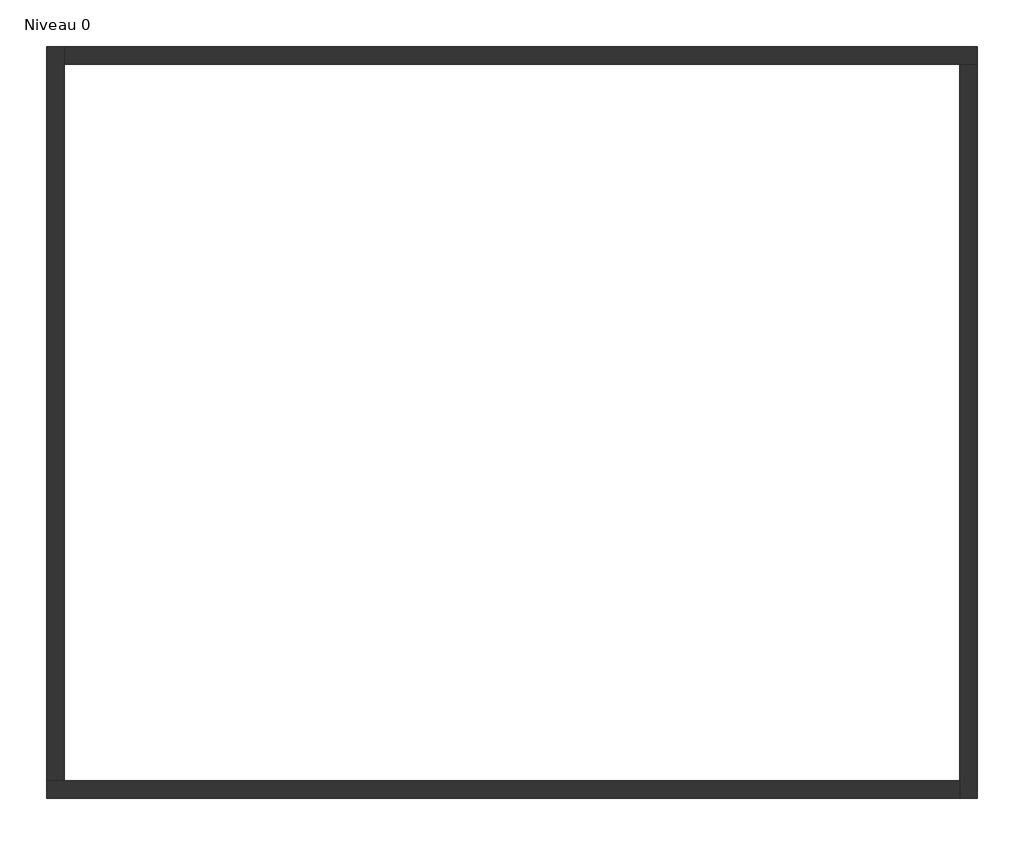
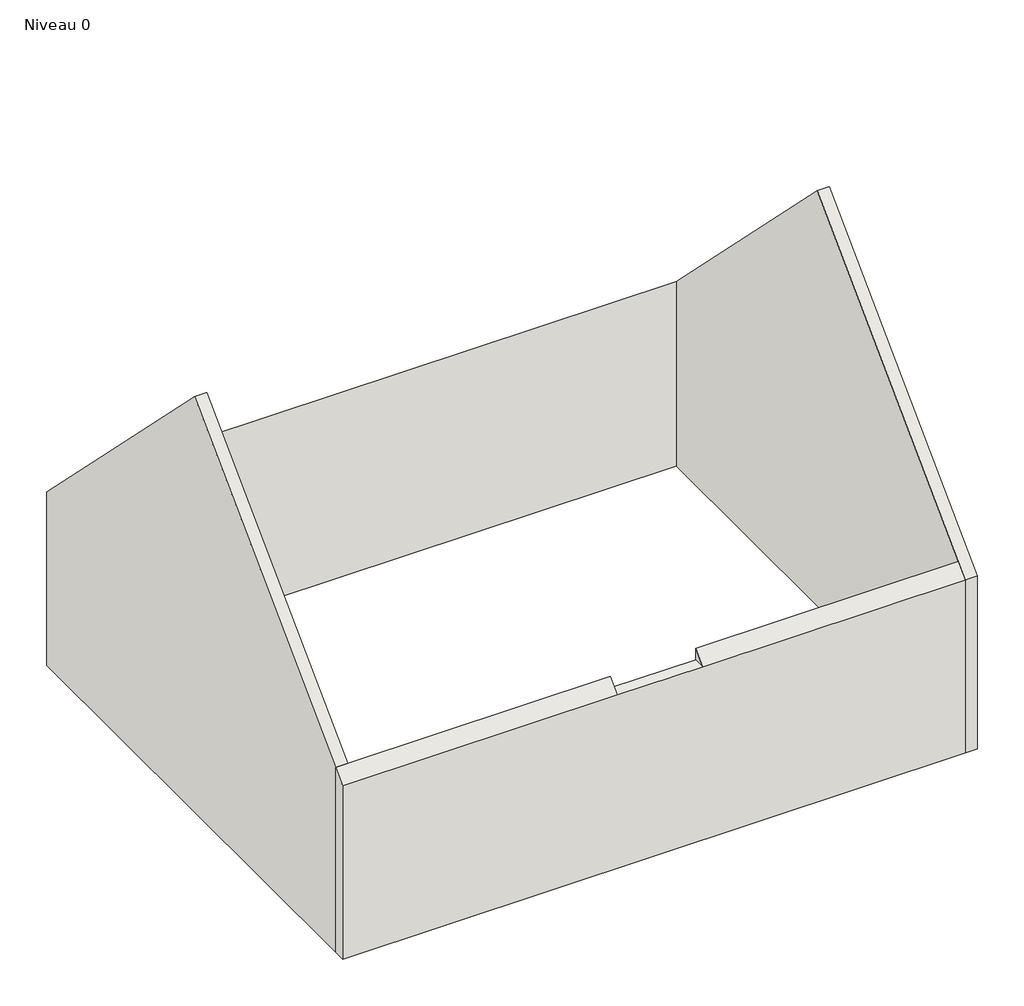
# One storey: 4 walls.
"""IFC4 building model written with IfcOpenShell, lengths in millimetres."""

from ifc_helpers import new_model, si_unit, origin, place, context, project, spatial, faceted_brep, element, save

model = new_model("IFC4")

# Units and contexts
model_context = context("Model", 3, world=origin())
ifc_project = project(units=[si_unit("LENGTHUNIT", "METRE", prefix="MILLI")], contexts=[model_context])

# Site, building, storey
site = spatial("IfcSite", under=ifc_project)
building = spatial("IfcBuilding", under=site)
storey = spatial("IfcBuildingStorey", under=building, Name="Niveau 0", Elevation=0.0)

# Walls
placement = place(None, origin())
element("IfcWall", 1, ObjectType="Générique - Ext. 200 mm", at=placement, inside=storey, context=model_context, shape_type="Brep", body=[
    faceted_brep([(-7119.8687345, -1701.1340917, 0.0), (3080.1312655, -1701.1340917, 0.0), (3080.1312655, -1701.1340917, 3000.0), (-1219.8687345, -1701.1340917, 3000.0), (-2619.8687345, -1701.1340917, 3000.0), (-7119.8687345, -1701.1340917, 3000.0), (3080.1312655, -1501.1340917, 0.0), (-6919.8687345, -1501.1340917, 0.0), (-7119.8687345, -1501.1340917, 0.0), (-7119.8687345, -1501.1340917, 3200.0), (-6919.8687345, -1501.1340917, 3200.0), (-2619.8687345, -1501.1340917, 3200.0), (-2619.8687345, -1501.1340917, 3000.0), (-1219.8687345, -1501.1340917, 3000.0), (-1219.8687345, -1501.1340917, 3200.0), (3080.1312655, -1501.1340917, 3200.0)], [[[0, 1, 2, 3, 4, 5]], [[6, 7, 8, 9, 10, 11, 12, 13, 14, 15]], [[1, 0, 8, 7, 6]], [[0, 5, 9, 8]], [[2, 1, 6, 15]], [[2, 15, 14, 3]], [[9, 5, 4, 11, 10]], [[12, 4, 3, 13]], [[4, 12, 11]], [[13, 3, 14]]]),
])
element("IfcWall", 2, ObjectType="Générique - Ext. 200 mm", at=placement, inside=storey, context=model_context, shape_type="Brep", body=[
    faceted_brep([(-7119.8687345, 6698.8659083, 0.0), (-7119.8687345, -1501.1340917, 0.0), (-7119.8687345, -1501.1340917, 3200.0), (-7119.8687345, 2498.8659083, 7200.0), (-7119.8687345, 6698.8659083, 3000.0), (-6919.8687345, 6698.8659083, 0.0), (-6919.8687345, 6698.8659083, 3000.0), (-6919.8687345, 6498.8659083, 3200.0), (-6919.8687345, 2498.8659083, 7200.0), (-6919.8687345, -1501.1340917, 3200.0), (-6919.8687345, -1501.1340917, 0.0), (-6919.8687345, 6498.8659083, 0.0)], [[[0, 1, 2, 3, 4]], [[5, 6, 7, 8, 9, 10, 11]], [[1, 0, 5, 11, 10]], [[0, 4, 6, 5]], [[2, 1, 10, 9]], [[4, 3, 8, 7, 6]], [[3, 2, 9, 8]]]),
])
element("IfcWall", 3, ObjectType="Générique - Ext. 200 mm", at=placement, inside=storey, context=model_context, shape_type="Brep", body=[
    faceted_brep([(3280.1312655, 6698.8659083, 0.0), (-6919.8687345, 6698.8659083, 0.0), (-6919.8687345, 6698.8659083, 3000.0), (3280.1312655, 6698.8659083, 3000.0), (3280.1312655, 6498.8659083, 0.0), (3280.1312655, 6498.8659083, 3200.0), (3080.1312655, 6498.8659083, 3200.0), (-6919.8687345, 6498.8659083, 3200.0), (-6919.8687345, 6498.8659083, 0.0), (3080.1312655, 6498.8659083, 0.0)], [[[0, 1, 2, 3]], [[4, 5, 6, 7, 8, 9]], [[1, 0, 4, 9, 8]], [[0, 3, 5, 4]], [[2, 1, 8, 7]], [[3, 2, 7, 6, 5]]]),
])
element("IfcWall", 4, ObjectType="Générique - Ext. 200 mm", at=placement, inside=storey, context=model_context, shape_type="Brep", body=[
    faceted_brep([(3280.1312655, -1701.1340917, 0.0), (3280.1312655, 6498.8659083, 0.0), (3280.1312655, 6498.8659083, 3200.0), (3280.1312655, 2498.8659083, 7200.0), (3280.1312655, -1701.1340917, 3000.0), (3080.1312655, -1701.1340917, 0.0), (3080.1312655, -1701.1340917, 3000.0), (3080.1312655, -1501.1340917, 3200.0), (3080.1312655, 2498.8659083, 7200.0), (3080.1312655, 6498.8659083, 3200.0), (3080.1312655, 6498.8659083, 0.0), (3080.1312655, -1501.1340917, 0.0)], [[[0, 1, 2, 3, 4]], [[5, 6, 7, 8, 9, 10, 11]], [[1, 0, 5, 11, 10]], [[0, 4, 6, 5]], [[2, 1, 10, 9]], [[4, 3, 8, 7, 6]], [[3, 2, 9, 8]]]),
])

save(model, "model.ifc")
